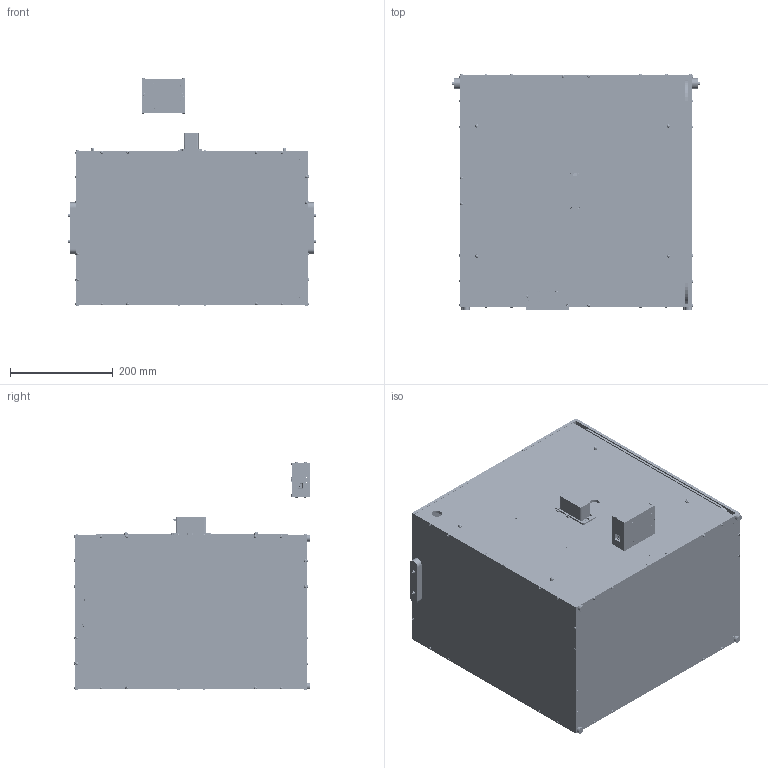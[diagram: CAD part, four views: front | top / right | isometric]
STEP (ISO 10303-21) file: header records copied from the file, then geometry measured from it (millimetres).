
FILE_DESCRIPTION(/* description */ (''),/* implementation_level */ '2;1');
FILE_NAME(/* name */ '/Users/leslieshaw/Desktop/SF_1.8_3D_Model.step',/* time_stamp */ '2021-10-26T17:08:24-07:00',/* author */ (''),/* organization */ (''),/* preprocessor_version */ 'ST-DEVELOPER v18.1',/* originating_system */ 'Autodesk Translation Framework v10.10.0.1391',/* authorisation */ '');
FILE_SCHEMA (('AUTOMOTIVE_DESIGN { 1 0 10303 214 3 1 1 }'));
Products named in the file (97): SF_1.8_3D_Model; Quarter_scale_servo v1; Component65; light screws 90272A108_ZINC-PLTD STL PAN HEAD PHILLIPS MACHINE SCREW 
v1; light screws 90272A108_ZINC-PLTD STL PAN HEAD PHILLIPS MACHINE SCREW 
v1 (1); light screws 90272A108_ZINC-PLTD STL PAN HEAD PHILLIPS MACHINE SCREW 
v1 (2); light screws 90272A108_ZINC-PLTD STL PAN HEAD PHILLIPS MACHINE SCREW 
v1 (3); Sensor Fusion box rev. 1; motor plate v1; Right; Bottom; Left ; Front; Rail on Bottom; Sliding Door; Handle (front); Handle bottom (front); Top; Rail on Top (1); Handle (front) (1); Handle bottom (front) (1); Back (1); handle1 91251A150_BLACK-OXIDE ALLOY STEEL SOCKET HEAD CAP SCREW v1; handle1 91251A150_BLACK-OXIDE ALLOY STEEL SOCKET HEAD CAP SCREW v1 (1
); handle1 91251A150_BLACK-OXIDE ALLOY STEEL SOCKET HEAD CAP SCREW v1 (2
); handle1 91251A150_BLACK-OXIDE ALLOY STEEL SOCKET HEAD CAP SCREW v1 (3
); Light1; Hook1; Hook2; Light1 (1); Hook1 (1); Hook2 (1); Vinyl Right; Vinyl Back; Vinyl Front; Vinyl Left; Vinyl Bottom; 90935A135_PAN HEAD PHILLIPS SCREW FOR SHEET METAL v1; 91875A105; 90272A148 ...
Assembly tree (235 placements, depth 5):
  SF_1.8_3D_Model
    Quarter_scale_servo v1
      Component65
    light screws 90272A108_ZINC-PLTD STL PAN HEAD PHILLIPS MACHINE SCREW 
v1
    light screws 90272A108_ZINC-PLTD STL PAN HEAD PHILLIPS MACHINE SCREW 
v1 (1)
    light screws 90272A108_ZINC-PLTD STL PAN HEAD PHILLIPS MACHINE SCREW 
v1 (2)
    light screws 90272A108_ZINC-PLTD STL PAN HEAD PHILLIPS MACHINE SCREW 
v1 (3)
    Sensor Fusion box rev. 1
      motor plate v1
      Right
      Bottom
      Left 
      Front
      Rail on Bottom
      Sliding Door
      Handle (front)
      Handle bottom (front)
      Top
      Rail on Top (1)
      Handle (front) (1)
      Handle bottom (front) (1)
      Back (1)
    handle1 91251A150_BLACK-OXIDE ALLOY STEEL SOCKET HEAD CAP SCREW v1
    handle1 91251A150_BLACK-OXIDE ALLOY STEEL SOCKET HEAD CAP SCREW v1 (1
)
    handle1 91251A150_BLACK-OXIDE ALLOY STEEL SOCKET HEAD CAP SCREW v1 (2
)
    handle1 91251A150_BLACK-OXIDE ALLOY STEEL SOCKET HEAD CAP SCREW v1 (3
)
    Light1
    Hook1
    Hook2
    Light1 (1)
    Hook1 (1)
    Hook2 (1)
    Vinyl Right
    Vinyl Back
    Vinyl Front
    Vinyl Bottom  x2
    Vinyl Left
    90935A135_PAN HEAD PHILLIPS SCREW FOR SHEET METAL v1  x62
    91875A105  x4
    90272A148  x4
    Feet1
    Feet4
    Feet3
    Feet2
    Phone Fixture Rev. 2.1
      94320A644_SLOTTED HEAD NYLON THUMB SCREW v1  x6
      4 - 24 servo 90190A108_PAN HEAD PHILLIPS SCREW FOR SHEET METAL v1
      roundtable mount v10
        plate
      525118
      91772A151_Passivated 18-8 Stainless Steel Pan Head Phillips Screw  x2
      91855A430_18-8 STAINLESS STEEL CAP NUT  x2
    arduino_controller
      arduino uno
        unoboard blue
        47uf CAP Dcase  x2
        USB type b
          USB SHELL
          USB core
          usb top contact  x2
Bounding box: 481.04 x 458.52 x 444.67 mm (x, y, z)
Volume: 7290193.4 mm3; surface area: 4176023.7 mm2
Topology: 334 solids, 352 shells, 18343 faces, 49508 edges, 32443 vertices
Faces by surface type: plane 8661, cylinder 5450, bspline 2801, cone 825, torus 485, sphere 121
Full cylindrical faces by diameter (mm): 0.3 x1, 0.4 x1, 0.5 x32, 0.6 x29, 0.8 x82, 1 x11, 1.35 x56, 1.699 x627, 1.7 x56, 2 x4, 2.02 x76, 2.083 x60, 2.35 x90, 2.474 x188, 2.5 x85, 2.54 x2, 2.702 x2, 2.705 x21, 2.845 x631, 3 x125, 3.175 x11, 3.2 x1, 3.505 x214, 3.556 x4, 3.6 x3, 4.7 x150, 5.035 x20, 5.563 x10, 5.715 x1, 5.74 x4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
Entity records: 453225 total; most frequent: CARTESIAN_POINT 218585, ORIENTED_EDGE 51018, DIRECTION 42798, EDGE_CURVE 25517, VERTEX_POINT 16735, LINE 16622, VECTOR 16622, AXIS2_PLACEMENT_3D 13088
